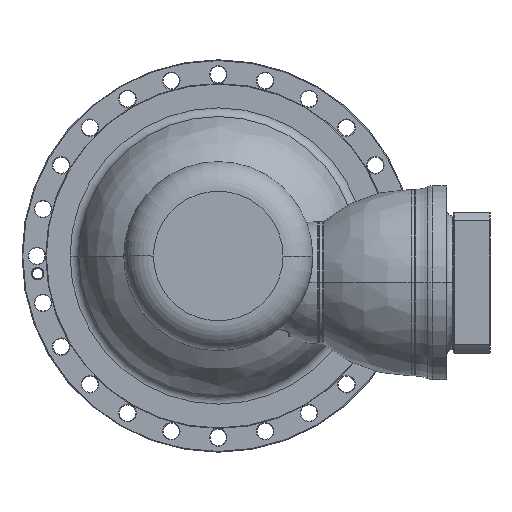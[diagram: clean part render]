
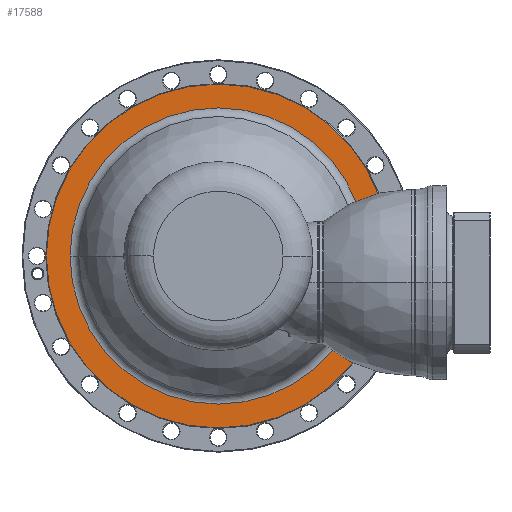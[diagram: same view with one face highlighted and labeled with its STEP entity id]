
A CAD part, left-side view. The second image highlights one B-rep face of the part: STEP entity #17588.
In plain terms, the highlighted planar face has unit normal (-1, 0, 0) as drawn and (1, 0, 0) by its records, which use the part's own axes.
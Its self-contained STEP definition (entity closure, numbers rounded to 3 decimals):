
#17059=CARTESIAN_POINT('',(-137.5,0.,0.));
#17060=DIRECTION('',(-1.,0.,0.));
#17061=DIRECTION('',(0.,-1.,0.));
#17062=AXIS2_PLACEMENT_3D('',#17059,#17060,#17061);
#17064=CARTESIAN_POINT('',(-137.5,0.,0.));
#17065=DIRECTION('',(-1.,0.,0.));
#17066=DIRECTION('',(0.,1.,0.));
#17067=AXIS2_PLACEMENT_3D('',#17064,#17065,#17066);
#17069=CARTESIAN_POINT('',(-137.5,0.,0.));
#17070=DIRECTION('',(1.,0.,0.));
#17071=DIRECTION('',(0.,-1.,0.));
#17072=AXIS2_PLACEMENT_3D('',#17069,#17070,#17071);
#17074=CARTESIAN_POINT('',(-137.5,0.,0.));
#17075=DIRECTION('',(1.,0.,0.));
#17076=DIRECTION('',(0.,1.,0.));
#17077=AXIS2_PLACEMENT_3D('',#17074,#17075,#17076);
#17306=CARTESIAN_POINT('',(-137.5,-232.2,0.));
#17307=CARTESIAN_POINT('',(-137.5,232.2,0.));
#17308=VERTEX_POINT('',#17306);
#17309=VERTEX_POINT('',#17307);
#17354=CARTESIAN_POINT('',(-137.5,-200.055,0.));
#17355=CARTESIAN_POINT('',(-137.5,200.055,0.));
#17356=VERTEX_POINT('',#17354);
#17357=VERTEX_POINT('',#17355);
#17572=CARTESIAN_POINT('',(-137.5,0.,0.));
#17573=DIRECTION('',(1.,0.,0.));
#17574=DIRECTION('',(0.,-1.,0.));
#17575=AXIS2_PLACEMENT_3D('',#17572,#17573,#17574);
#17576=PLANE('',#17575);
#17578=ORIENTED_EDGE('',*,*,#17577,.T.);
#17580=ORIENTED_EDGE('',*,*,#17579,.T.);
#17581=EDGE_LOOP('',(#17578,#17580));
#17582=FACE_OUTER_BOUND('',#17581,.F.);
#17583=ORIENTED_EDGE('',*,*,#17562,.T.);
#17585=ORIENTED_EDGE('',*,*,#17584,.T.);
#17586=EDGE_LOOP('',(#17583,#17585));
#17587=FACE_BOUND('',#17586,.F.);
#17588=ADVANCED_FACE('',(#17582,#17587),#17576,.T.);
#17063=CIRCLE('',#17062,232.2);
#17068=CIRCLE('',#17067,232.2);
#17073=CIRCLE('',#17072,200.055);
#17078=CIRCLE('',#17077,200.055);
#17562=EDGE_CURVE('',#17356,#17357,#17073,.T.);
#17577=EDGE_CURVE('',#17308,#17309,#17063,.T.);
#17579=EDGE_CURVE('',#17309,#17308,#17068,.T.);
#17584=EDGE_CURVE('',#17357,#17356,#17078,.T.);
